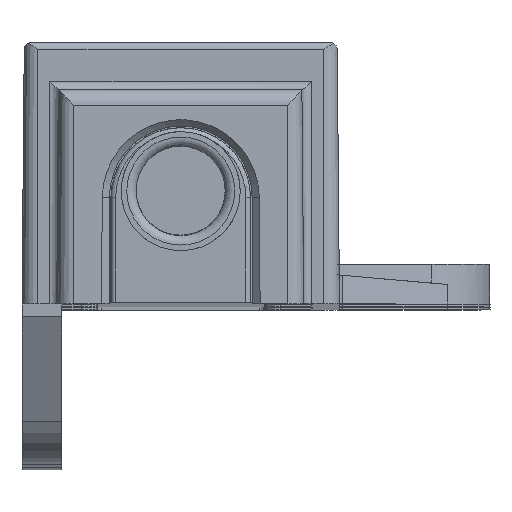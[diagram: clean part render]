
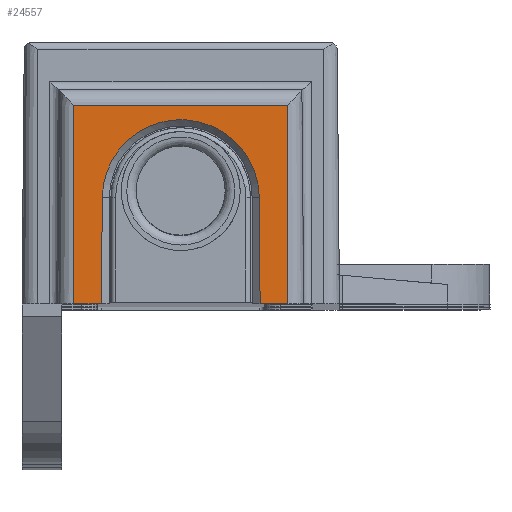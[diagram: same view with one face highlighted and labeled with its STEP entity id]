
A CAD part, top view. The second image highlights one B-rep face of the part: STEP entity #24557.
In plain terms, the highlighted planar face has unit normal (0, 0.009, 1).
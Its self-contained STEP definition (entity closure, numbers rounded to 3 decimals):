
#21606=CARTESIAN_POINT('',(6.75,0.0,3.5));
#21607=VERTEX_POINT('',#21606);
#21615=CARTESIAN_POINT('',(5.,0.0,3.5));
#21616=VERTEX_POINT('',#21615);
#21617=CARTESIAN_POINT('',(5.,0.0,3.5));
#21618=DIRECTION('',(1.0,0.0,0.0));
#21619=VECTOR('',#21618,1.75);
#21620=LINE('',#21617,#21619);
#21621=EDGE_CURVE('',#21616,#21607,#21620,.T.);
#22073=CARTESIAN_POINT('',(-5.,0.0,3.5));
#22074=VERTEX_POINT('',#22073);
#22081=CARTESIAN_POINT('',(-6.75,0.0,3.5));
#22082=VERTEX_POINT('',#22081);
#22083=CARTESIAN_POINT('',(-6.75,0.0,3.5));
#22084=DIRECTION('',(1.0,0.0,0.0));
#22085=VECTOR('',#22084,1.75);
#22086=LINE('',#22083,#22085);
#22087=EDGE_CURVE('',#22082,#22074,#22086,.T.);
#24302=CARTESIAN_POINT('',(-4.942,6.7,3.442));
#24303=VERTEX_POINT('',#24302);
#24304=CARTESIAN_POINT('',(4.942,6.7,3.442));
#24305=VERTEX_POINT('',#24304);
#24306=CARTESIAN_POINT('',(0.0,6.657,3.442));
#24307=DIRECTION('',(0.,-0.009,-1.));
#24308=DIRECTION('',(0.,-1.,0.009));
#24309=AXIS2_PLACEMENT_3D('',#24306,#24307,#24308);
#24310=ELLIPSE('',#24309,4.942,4.942);
#24311=EDGE_CURVE('',#24303,#24305,#24310,.T.);
#24513=CARTESIAN_POINT('',(6.75,0.0,3.5));
#24514=DIRECTION('',(0.0,0.009,1.));
#24515=DIRECTION('',(1.0,0.0,0.0));
#24516=AXIS2_PLACEMENT_3D('',#24513,#24514,#24515);
#24517=PLANE('',#24516);
#24518=ORIENTED_EDGE('',*,*,#24311,.T.);
#24519=CARTESIAN_POINT('',(4.942,6.7,3.442));
#24520=DIRECTION('',(0.009,-1.,0.009));
#24521=VECTOR('',#24520,6.701);
#24522=LINE('',#24519,#24521);
#24523=EDGE_CURVE('',#24305,#21616,#24522,.T.);
#24524=ORIENTED_EDGE('',*,*,#24523,.T.);
#24525=ORIENTED_EDGE('',*,*,#21621,.T.);
#24526=CARTESIAN_POINT('',(6.75,12.509,3.391));
#24527=VERTEX_POINT('',#24526);
#24528=CARTESIAN_POINT('',(6.75,0.0,3.5));
#24529=DIRECTION('',(0.0,1.,-0.009));
#24530=VECTOR('',#24529,12.509);
#24531=LINE('',#24528,#24530);
#24532=EDGE_CURVE('',#21607,#24527,#24531,.T.);
#24533=ORIENTED_EDGE('',*,*,#24532,.T.);
#24534=CARTESIAN_POINT('',(-6.75,12.509,3.391));
#24535=VERTEX_POINT('',#24534);
#24536=CARTESIAN_POINT('',(-6.75,12.509,3.391));
#24537=DIRECTION('',(1.0,0.0,0.0));
#24538=VECTOR('',#24537,13.5);
#24539=LINE('',#24536,#24538);
#24540=EDGE_CURVE('',#24535,#24527,#24539,.T.);
#24541=ORIENTED_EDGE('',*,*,#24540,.F.);
#24542=CARTESIAN_POINT('',(-6.75,0.0,3.5));
#24543=DIRECTION('',(0.0,1.,-0.009));
#24544=VECTOR('',#24543,12.509);
#24545=LINE('',#24542,#24544);
#24546=EDGE_CURVE('',#22082,#24535,#24545,.T.);
#24547=ORIENTED_EDGE('',*,*,#24546,.F.);
#24548=ORIENTED_EDGE('',*,*,#22087,.T.);
#24549=CARTESIAN_POINT('',(-5.,0.,3.5));
#24550=DIRECTION('',(0.009,1.,-0.009));
#24551=VECTOR('',#24550,6.701);
#24552=LINE('',#24549,#24551);
#24553=EDGE_CURVE('',#22074,#24303,#24552,.T.);
#24554=ORIENTED_EDGE('',*,*,#24553,.T.);
#24555=EDGE_LOOP('',(#24518,#24524,#24525,#24533,#24541,#24547,#24548,#24554));
#24556=FACE_OUTER_BOUND('',#24555,.T.);
#24557=ADVANCED_FACE('',(#24556),#24517,.T.);
